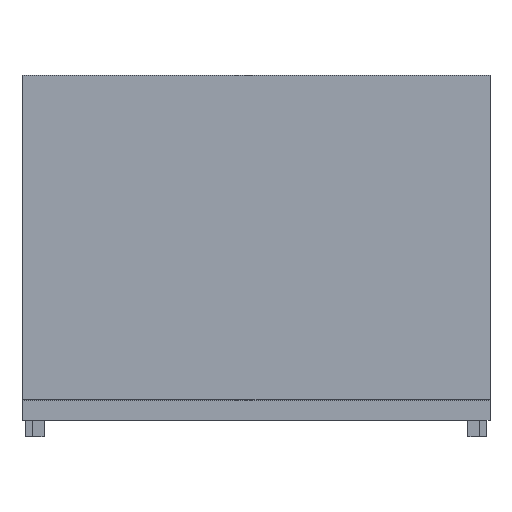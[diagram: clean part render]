
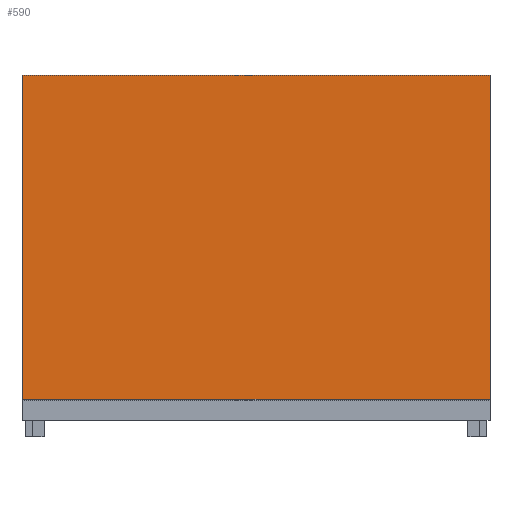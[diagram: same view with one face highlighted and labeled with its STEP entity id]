
A CAD part, top view. The second image highlights one B-rep face of the part: STEP entity #590.
In plain terms, the highlighted planar face has unit normal (0, 0, 1).
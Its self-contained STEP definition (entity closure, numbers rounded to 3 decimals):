
#590=ADVANCED_FACE('',(#4774),#4776,.T.);
#4774=FACE_BOUND('',#4775,.T.);
#4775=EDGE_LOOP('',(#8457,#8458,#8459,#8460));
#4776=PLANE('',#4777);
#4777=AXIS2_PLACEMENT_3D('',#4778,#4779,#4780);
#4778=CARTESIAN_POINT('',(0.,50.25,141.3));
#4779=DIRECTION('',(0.,0.,1.));
#4780=DIRECTION('',(1.,0.,0.));
#8457=ORIENTED_EDGE('',*,*,#10238,.T.);
#8458=ORIENTED_EDGE('',*,*,#10261,.F.);
#8459=ORIENTED_EDGE('',*,*,#10259,.F.);
#8460=ORIENTED_EDGE('',*,*,#10257,.F.);
#10238=EDGE_CURVE('',#12941,#12939,#12942,.T.);
#10257=EDGE_CURVE('',#12941,#12969,#12970,.F.);
#10259=EDGE_CURVE('',#12969,#12972,#12973,.F.);
#10261=EDGE_CURVE('',#12972,#12939,#12975,.F.);
#12939=VERTEX_POINT('',#19406);
#12941=VERTEX_POINT('',#19410);
#12942=LINE('',#19411,#19412);
#12969=VERTEX_POINT('',#19476);
#12970=LINE('',#19477,#19478);
#12972=VERTEX_POINT('',#19483);
#12973=LINE('',#19484,#19485);
#12975=LINE('',#19490,#19491);
#19406=CARTESIAN_POINT('',(522.8,-311.5,141.3));
#19410=CARTESIAN_POINT('',(-522.8,-311.5,141.3));
#19411=CARTESIAN_POINT('',(-522.8,-311.5,141.3));
#19412=VECTOR('',#19413,1.);
#19413=DIRECTION('',(1.,0.,0.));
#19476=CARTESIAN_POINT('',(-522.8,413.3,141.3));
#19477=CARTESIAN_POINT('',(-522.8,413.3,141.3));
#19478=VECTOR('',#19479,1.);
#19479=DIRECTION('',(0.,-1.,0.));
#19483=CARTESIAN_POINT('',(522.8,413.3,141.3));
#19484=CARTESIAN_POINT('',(522.8,413.3,141.3));
#19485=VECTOR('',#19486,1.);
#19486=DIRECTION('',(-1.,0.,0.));
#19490=CARTESIAN_POINT('',(522.8,-311.5,141.3));
#19491=VECTOR('',#19492,1.);
#19492=DIRECTION('',(0.,1.,0.));
